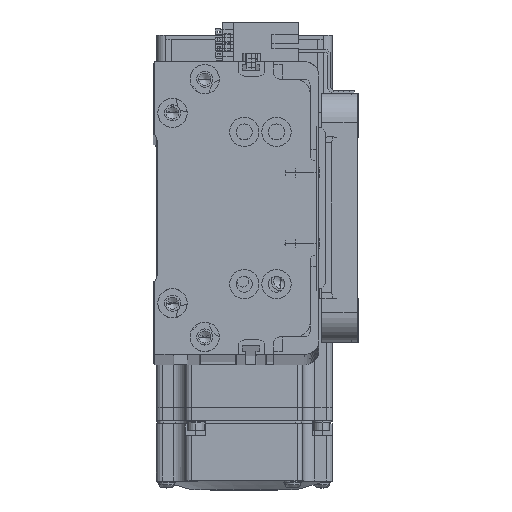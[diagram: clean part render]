
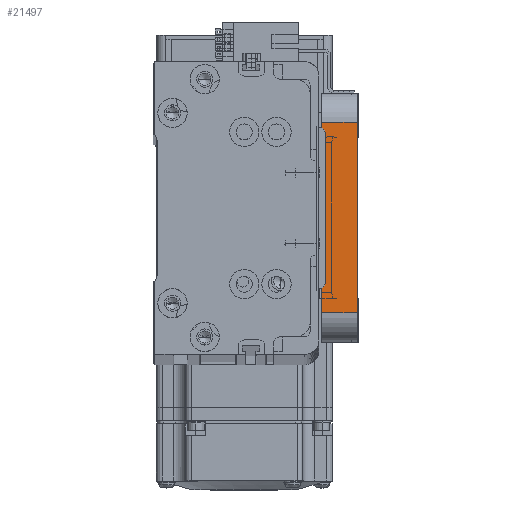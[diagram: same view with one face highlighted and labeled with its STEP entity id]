
A CAD part, top view. The second image highlights one B-rep face of the part: STEP entity #21497.
In plain terms, the highlighted planar face has unit normal (0, 0, 1) as drawn and (-1, 0, 0) by its records, which use the part's own axes.
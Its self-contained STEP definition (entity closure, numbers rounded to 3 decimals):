
#5696 = CARTESIAN_POINT ( 'NONE',  ( -55., 32.5, 0. ) ) ;
#7082 = VECTOR ( 'NONE', #51455, 1000. ) ;
#10447 = ORIENTED_EDGE ( 'NONE', *, *, #73340, .F. ) ;
#10914 = DIRECTION ( 'NONE',  ( 0., 0., -1. ) ) ;
#12770 = CARTESIAN_POINT ( 'NONE',  ( -55., -32.5, 12. ) ) ;
#15129 = VECTOR ( 'NONE', #68310, 1000. ) ;
#15898 = LINE ( 'NONE', #52593, #29974 ) ;
#17177 = AXIS2_PLACEMENT_3D ( 'NONE', #38309, #56380, #20434 ) ;
#20434 = DIRECTION ( 'NONE',  ( 0., 0., -1. ) ) ;
#21497 = ADVANCED_FACE ( 'NONE', ( #75325 ), #50311, .F. ) ;
#22249 = CARTESIAN_POINT ( 'NONE',  ( -55., -42.5, 12. ) ) ;
#27094 = VERTEX_POINT ( 'NONE', #12770 ) ;
#29974 = VECTOR ( 'NONE', #10914, 1000. ) ;
#33577 = ORIENTED_EDGE ( 'NONE', *, *, #59104, .T. ) ;
#34894 = LINE ( 'NONE', #55995, #15129 ) ;
#38309 = CARTESIAN_POINT ( 'NONE',  ( -55., -42.5, 12. ) ) ;
#40111 = DIRECTION ( 'NONE',  ( 0., -1., 0. ) ) ;
#43896 = VECTOR ( 'NONE', #40111, 1000. ) ;
#45772 = LINE ( 'NONE', #22249, #43896 ) ;
#48835 = EDGE_CURVE ( 'NONE', #64551, #27094, #34894, .T. ) ;
#50058 = EDGE_LOOP ( 'NONE', ( #56918, #71268, #10447, #33577 ) ) ;
#50311 = PLANE ( 'NONE',  #17177 ) ;
#51455 = DIRECTION ( 'NONE',  ( 0., -1., 0. ) ) ;
#51972 = CARTESIAN_POINT ( 'NONE',  ( -55., -42.5, 0. ) ) ;
#52593 = CARTESIAN_POINT ( 'NONE',  ( -55., 32.5, 12. ) ) ;
#53012 = EDGE_CURVE ( 'NONE', #55120, #64551, #53063, .T. ) ;
#53063 = LINE ( 'NONE', #51972, #7082 ) ;
#55120 = VERTEX_POINT ( 'NONE', #5696 ) ;
#55995 = CARTESIAN_POINT ( 'NONE',  ( -55., -32.5, 12. ) ) ;
#56380 = DIRECTION ( 'NONE',  ( 1., 0., 0. ) ) ;
#56918 = ORIENTED_EDGE ( 'NONE', *, *, #53012, .T. ) ;
#57388 = CARTESIAN_POINT ( 'NONE',  ( -55., 32.5, 12. ) ) ;
#59104 = EDGE_CURVE ( 'NONE', #67212, #55120, #15898, .T. ) ;
#64551 = VERTEX_POINT ( 'NONE', #71869 ) ;
#67212 = VERTEX_POINT ( 'NONE', #57388 ) ;
#68310 = DIRECTION ( 'NONE',  ( 0., 0., 1. ) ) ;
#71268 = ORIENTED_EDGE ( 'NONE', *, *, #48835, .T. ) ;
#71869 = CARTESIAN_POINT ( 'NONE',  ( -55., -32.5, 0. ) ) ;
#73340 = EDGE_CURVE ( 'NONE', #67212, #27094, #45772, .T. ) ;
#75325 = FACE_OUTER_BOUND ( 'NONE', #50058, .T. ) ;
